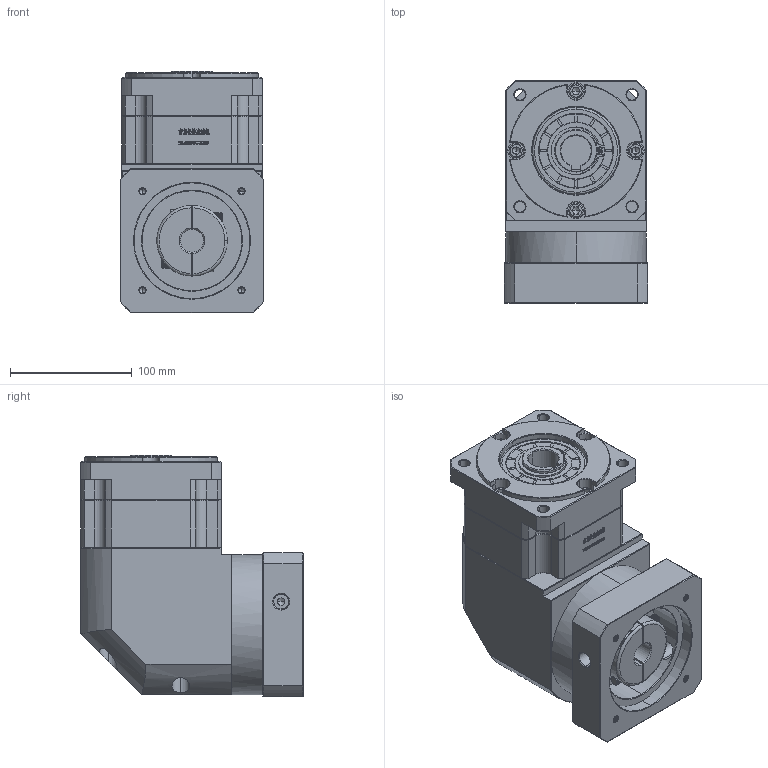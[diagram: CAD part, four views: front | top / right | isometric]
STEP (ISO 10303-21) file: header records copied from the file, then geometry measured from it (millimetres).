
FILE_DESCRIPTION (( 'STEP AP214' ), '1' );
FILE_NAME ('ZBR115A-K25-L1-19-95-115-M6.step', '2023-03-03T05:04:58', ( '' ), ( 'Microsoft' ), 'SwSTEP 2.0', 'SolidWorks 2016', '' );
FILE_SCHEMA (( 'AUTOMOTIVE_DESIGN' ));
Length unit declared in the file: millimetre
Products named in the file (1): ZBR115A-K25-L1-19-95-115-M6
Bounding box: 118 x 182.4 x 198 mm (x, y, z)
Volume: 2819188.6 mm3; surface area: 236408 mm2
Topology: 6 solids, 6 shells, 2914 faces, 7737 edges, 4968 vertices
Faces by surface type: plane 1551, bspline 601, cylinder 391, cone 363, torus 8
Entity records: 156765 total; most frequent: CARTESIAN_POINT 56913, ORIENTED_EDGE 15418, DIRECTION 11715, EDGE_CURVE 7709, VECTOR 5235, LINE 5235, VERTEX_POINT 4968, AXIS2_PLACEMENT_3D 3240
